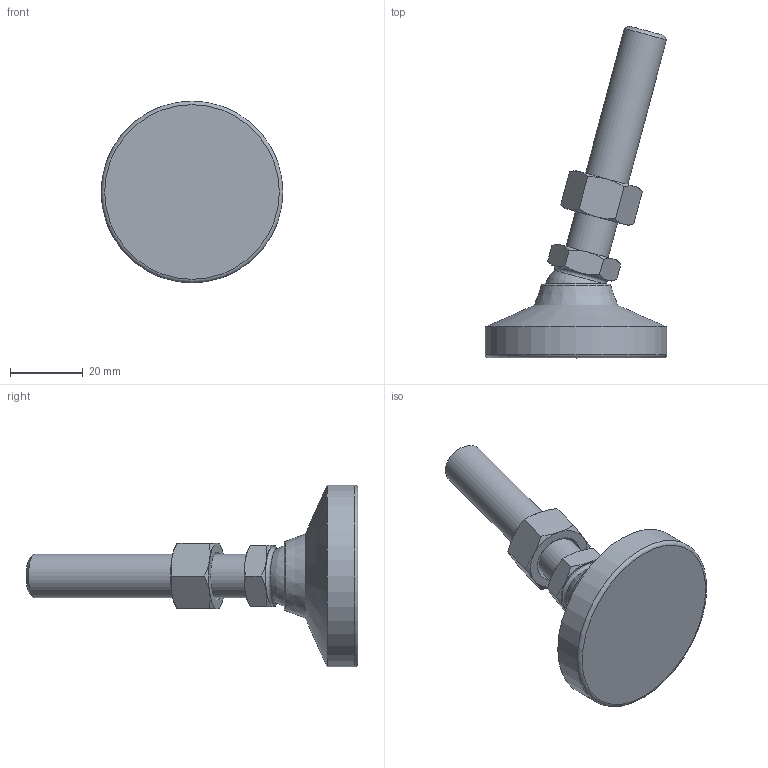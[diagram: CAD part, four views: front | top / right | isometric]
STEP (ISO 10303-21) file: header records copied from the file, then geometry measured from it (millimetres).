
FILE_DESCRIPTION( ( 'STEP AP214' ), ' ' );
FILE_NAME( 'O:/ganter_2015/teil_2/2_5/gn343_2/gn343_2_kre/Levelling foot with threaded stud GN 343.2-50-M12-63-KRE-(-15).stp', '2015-10-26T09:19:41', ( '' ), ( '' ), ' ', 'PARTsolutions', ' ' );
FILE_SCHEMA( ( 'AUTOMOTIVE_DESIGN { 1 0 10303 214 1 1 1 1 }' ) );
Length unit declared in the file: millimetre
Products named in the file (4): Levelling foot with threaded stud GN 343.2-50-M12-63-KRE-(-15); _Levelling foot with threaded stud GN 343.2-50-M12-63-KRE-(-15)_foot; _Levelling foot with threaded stud GN 343.2-50-M12-63-KRE-(-15)_screw; _Levelling foot with threaded stud GN 343.2-50-M12-63-KRE-(-15)_nut
Assembly tree (3 placements, depth 2):
  Levelling foot with threaded stud GN 343.2-50-M12-63-KRE-(-15)
    _Levelling foot with threaded stud GN 343.2-50-M12-63-KRE-(-15)_foot
    _Levelling foot with threaded stud GN 343.2-50-M12-63-KRE-(-15)_screw
    _Levelling foot with threaded stud GN 343.2-50-M12-63-KRE-(-15)_nut
Bounding box: 50 x 91.25 x 50 mm (x, y, z)
Volume: 36523.1 mm3; surface area: 11140 mm2
Topology: 3 solids, 3 shells, 56 faces, 117 edges, 68 vertices
Faces by surface type: cone 29, plane 19, torus 3, cylinder 3, sphere 2
Full cylindrical faces by diameter (mm): 10.106 x1, 12 x1, 50 x1
Entity records: 2066 total; most frequent: CARTESIAN_POINT 498, DIRECTION 212, ORIENTED_EDGE 200, AXIS2_PLACEMENT_3D 100, EDGE_CURVE 100, EDGE_LOOP 72, VERTEX_POINT 66, FACE_OUTER_BOUND 62
